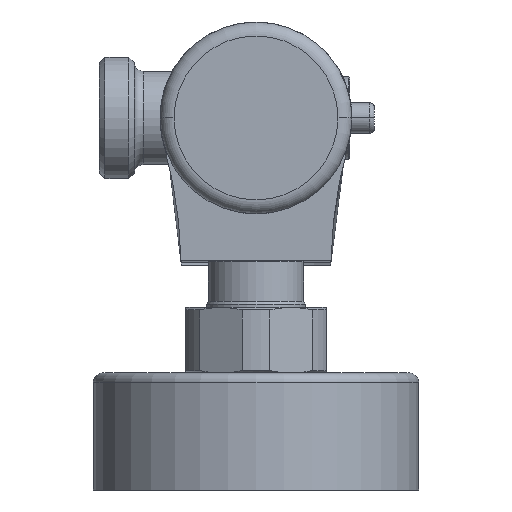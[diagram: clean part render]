
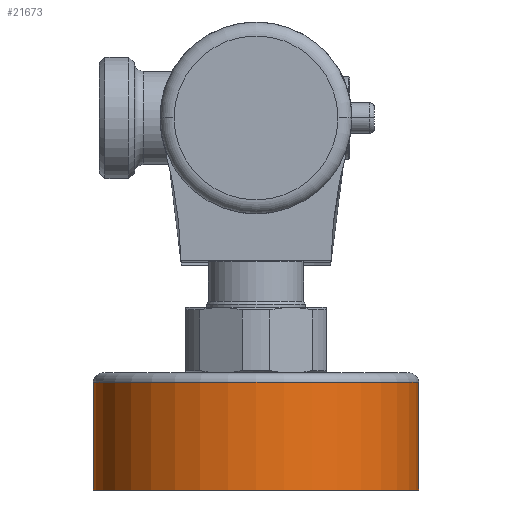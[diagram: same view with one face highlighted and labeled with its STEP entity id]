
A CAD part, left-side view. The second image highlights one B-rep face of the part: STEP entity #21673.
In plain terms, the highlighted cylindrical face has radius 34.75 mm (diameter 69.5 mm), a partial arc.
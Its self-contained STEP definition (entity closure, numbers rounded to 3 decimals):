
#7030=DIRECTION('',(0.,0.,-1.));
#7031=VECTOR('',#7030,23.);
#7032=CARTESIAN_POINT('',(-75.,34.75,-56.5));
#7033=LINE('',#7032,#7031);
#7034=DIRECTION('',(0.,0.,-1.));
#7035=VECTOR('',#7034,23.);
#7036=CARTESIAN_POINT('',(-75.,-34.75,-56.5));
#7037=LINE('',#7036,#7035);
#7043=CARTESIAN_POINT('',(-75.,0.,-56.5));
#7044=DIRECTION('',(0.,0.,1.));
#7045=DIRECTION('',(0.,1.,0.));
#7046=AXIS2_PLACEMENT_3D('',#7043,#7044,#7045);
#7053=CARTESIAN_POINT('',(-75.,0.,-79.5));
#7054=DIRECTION('',(0.,0.,1.));
#7055=DIRECTION('',(0.,1.,0.));
#7056=AXIS2_PLACEMENT_3D('',#7053,#7054,#7055);
#12312=CARTESIAN_POINT('',(-75.,34.75,-56.5));
#12314=VERTEX_POINT('',#12312);
#12315=CARTESIAN_POINT('',(-75.,34.75,-79.5));
#12316=VERTEX_POINT('',#12315);
#12334=CARTESIAN_POINT('',(-75.,-34.75,-56.5));
#12336=VERTEX_POINT('',#12334);
#12337=CARTESIAN_POINT('',(-75.,-34.75,-79.5));
#12338=VERTEX_POINT('',#12337);
#21661=CARTESIAN_POINT('',(-75.,0.,-80.75));
#21662=DIRECTION('',(0.,0.,1.));
#21663=DIRECTION('',(0.,-1.,0.));
#21664=AXIS2_PLACEMENT_3D('',#21661,#21662,#21663);
#21665=CYLINDRICAL_SURFACE('',#21664,34.75);
#21666=ORIENTED_EDGE('',*,*,#21651,.F.);
#21667=ORIENTED_EDGE('',*,*,#21628,.T.);
#21668=ORIENTED_EDGE('',*,*,#21655,.T.);
#21670=ORIENTED_EDGE('',*,*,#21669,.F.);
#21671=EDGE_LOOP('',(#21666,#21667,#21668,#21670));
#21672=FACE_OUTER_BOUND('',#21671,.F.);
#21673=ADVANCED_FACE('',(#21672),#21665,.T.);
#7047=CIRCLE('',#7046,34.75);
#7057=CIRCLE('',#7056,34.75);
#21628=EDGE_CURVE('',#12314,#12336,#7047,.T.);
#21651=EDGE_CURVE('',#12314,#12316,#7033,.T.);
#21655=EDGE_CURVE('',#12336,#12338,#7037,.T.);
#21669=EDGE_CURVE('',#12316,#12338,#7057,.T.);
